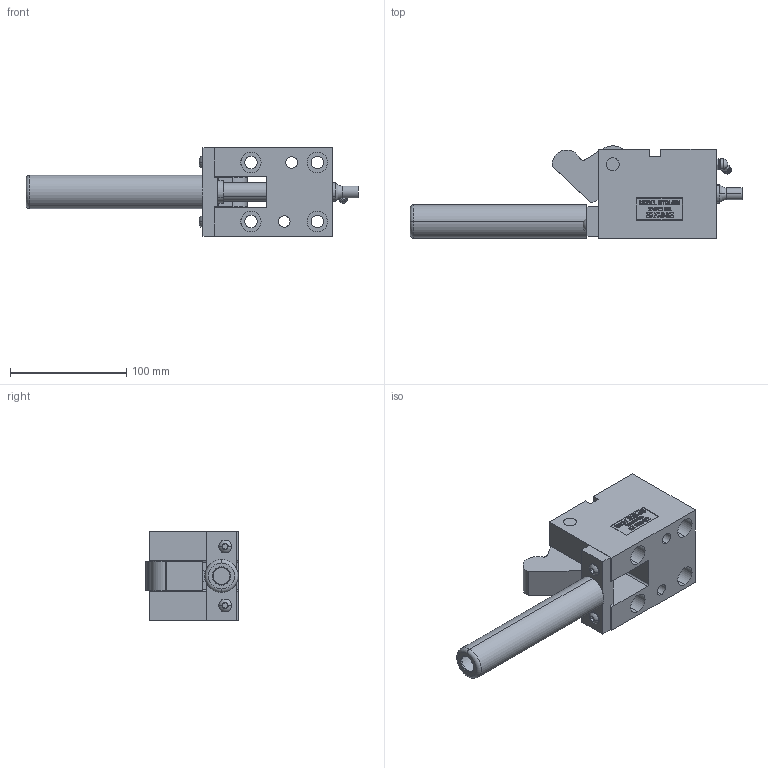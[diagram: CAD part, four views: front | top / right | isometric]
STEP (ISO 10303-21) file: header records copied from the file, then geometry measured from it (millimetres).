
FILE_DESCRIPTION (( 'STEP AP214' ), '1' );
FILE_NAME ('MTOL62545-O.STEP', '2014-01-08T20:12:10', ( 'user' ), ( '' ), 'SwSTEP 2.0', 'SolidWorks 2009', '' );
FILE_SCHEMA (( 'AUTOMOTIVE_DESIGN' ));
Length unit declared in the file: inch
Products named in the file (10): 625-O-STRAP; 625-OFFSET TRIGGER; GREASE ZERK; 1-4 SCREW; MOL625-PUNCH; OL625-CAGE; MTOL62545-O; MTOL625-BODY; 625 PIVOT PIN; M-O-625-POINT
Assembly tree (10 placements, depth 2):
  MTOL62545-O
    M-O-625-POINT
    MTOL625-BODY
    625-OFFSET TRIGGER
    625-O-STRAP
    625 PIVOT PIN
    OL625-CAGE
    MOL625-PUNCH
    1-4 SCREW  x2
    GREASE ZERK
Bounding box: 285.62 x 79.37 x 76.2 mm (x, y, z)
Volume: 529436.8 mm3; surface area: 122695.6 mm2
Topology: 10 solids, 10 shells, 610 faces, 1580 edges, 1040 vertices
Faces by surface type: plane 361, bspline 101, cylinder 96, cone 26, torus 22, sphere 4
Entity records: 24212 total; most frequent: CARTESIAN_POINT 9939, ORIENTED_EDGE 3072, DIRECTION 2486, EDGE_CURVE 1536, LINE 1018, VECTOR 1018, VERTEX_POINT 1014, AXIS2_PLACEMENT_3D 734
